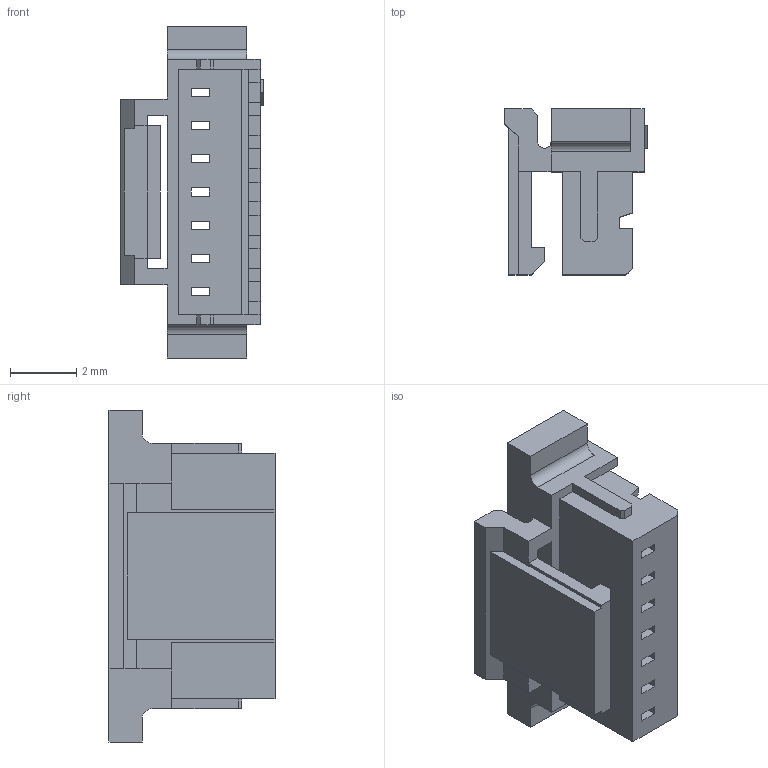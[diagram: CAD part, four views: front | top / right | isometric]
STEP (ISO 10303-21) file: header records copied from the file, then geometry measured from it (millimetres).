
FILE_DESCRIPTION (( 'STEP AP214' ), '1' );
FILE_NAME ('HC-G1.0-7Y（孔座-HCTL）.STEP', '2025-03-21T03:22:05', ( '' ), ( '' ), 'SwSTEP 2.0', 'SolidWorks 2022', '' );
FILE_SCHEMA (( 'AUTOMOTIVE_DESIGN' ));
Length unit declared in the file: millimetre
Products named in the file (1): HC-G1.0-7Y（孔座-HCTL）
Bounding box: 4.3 x 5 x 10 mm (x, y, z)
Volume: 61.9 mm3; surface area: 391.6 mm2
Topology: 1 solids, 1 shells, 301 faces, 917 edges, 610 vertices
Faces by surface type: plane 297, cylinder 4
Entity records: 10141 total; most frequent: ORIENTED_EDGE 1834, CARTESIAN_POINT 1829, DIRECTION 1529, EDGE_CURVE 917, VECTOR 909, LINE 909, VERTEX_POINT 610, EDGE_LOOP 323
